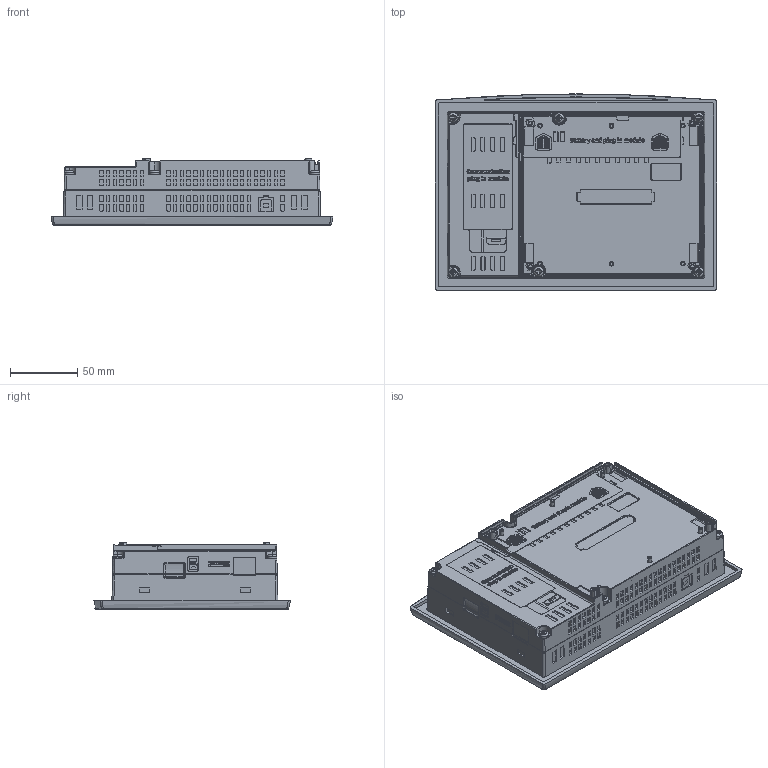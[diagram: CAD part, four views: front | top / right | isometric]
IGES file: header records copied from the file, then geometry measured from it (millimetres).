
Start section: SolidWorks IGES file using analytic representation for surfaces
Global section: file name: D:\Project\Vision 7\V700.IGS; native system: SolidWorks 2014; preprocessor: SolidWorks 2014; author: baraki; date: 150601.091754; units: millimetre
Bounding box: 209.98 x 146.36 x 49.4 mm (x, y, z)
Surface area: 106735.1 mm2 (no closed solid volume)
Topology: 0 solids, 0 shells, 4702 faces, 40435 edges, 40399 vertices
Faces by surface type: bspline 3428, revolution 1274
